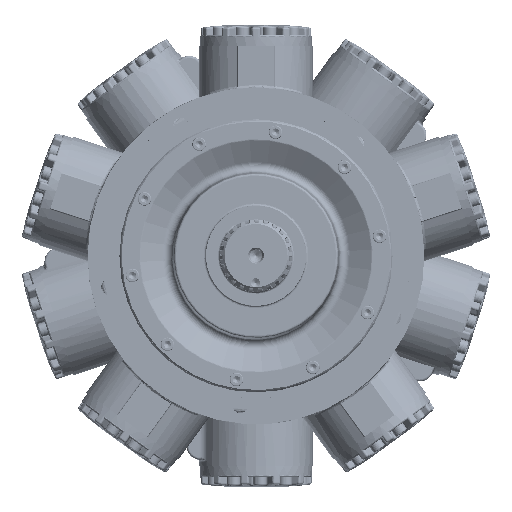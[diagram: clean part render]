
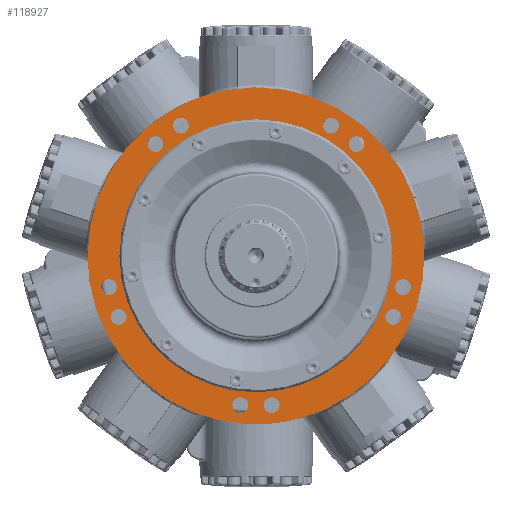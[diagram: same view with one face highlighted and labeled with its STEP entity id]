
A CAD part, top view. The second image highlights one B-rep face of the part: STEP entity #118927.
In plain terms, the highlighted planar face has unit normal (0, 0, 1).
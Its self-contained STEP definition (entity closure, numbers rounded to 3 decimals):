
#20186=PLANE('',#128538);
#24698=FACE_BOUND('',#39300,.T.);
#24699=FACE_BOUND('',#39301,.T.);
#24700=FACE_BOUND('',#39302,.T.);
#24701=FACE_BOUND('',#39303,.T.);
#24702=FACE_BOUND('',#39304,.T.);
#24703=FACE_BOUND('',#39305,.T.);
#24704=FACE_BOUND('',#39306,.T.);
#24705=FACE_BOUND('',#39307,.T.);
#24706=FACE_BOUND('',#39308,.T.);
#24707=FACE_BOUND('',#39309,.T.);
#24708=FACE_BOUND('',#39310,.T.);
#30509=FACE_OUTER_BOUND('',#39299,.T.);
#39299=EDGE_LOOP('',(#95717));
#39300=EDGE_LOOP('',(#95718));
#39301=EDGE_LOOP('',(#95719));
#39302=EDGE_LOOP('',(#95720));
#39303=EDGE_LOOP('',(#95721));
#39304=EDGE_LOOP('',(#95722));
#39305=EDGE_LOOP('',(#95723));
#39306=EDGE_LOOP('',(#95724));
#39307=EDGE_LOOP('',(#95725));
#39308=EDGE_LOOP('',(#95726));
#39309=EDGE_LOOP('',(#95727));
#39310=EDGE_LOOP('',(#95728));
#46356=CIRCLE('',#128279,19.046);
#46361=CIRCLE('',#128288,1.1);
#46365=CIRCLE('',#128295,1.1);
#46369=CIRCLE('',#128302,1.1);
#46373=CIRCLE('',#128309,1.1);
#46377=CIRCLE('',#128316,1.1);
#46381=CIRCLE('',#128323,1.1);
#46385=CIRCLE('',#128330,1.1);
#46389=CIRCLE('',#128337,1.1);
#46393=CIRCLE('',#128344,1.1);
#46397=CIRCLE('',#128351,1.1);
#46472=CIRCLE('',#128539,23.495);
#55493=VERTEX_POINT('',#215176);
#55498=VERTEX_POINT('',#215190);
#55502=VERTEX_POINT('',#215201);
#55506=VERTEX_POINT('',#215212);
#55510=VERTEX_POINT('',#215223);
#55514=VERTEX_POINT('',#215234);
#55518=VERTEX_POINT('',#215245);
#55522=VERTEX_POINT('',#215256);
#55526=VERTEX_POINT('',#215267);
#55530=VERTEX_POINT('',#215278);
#55534=VERTEX_POINT('',#215289);
#55764=VERTEX_POINT('',#216564);
#69524=EDGE_CURVE('',#55493,#55493,#46356,.T.);
#69529=EDGE_CURVE('',#55498,#55498,#46361,.T.);
#69533=EDGE_CURVE('',#55502,#55502,#46365,.T.);
#69537=EDGE_CURVE('',#55506,#55506,#46369,.T.);
#69541=EDGE_CURVE('',#55510,#55510,#46373,.T.);
#69545=EDGE_CURVE('',#55514,#55514,#46377,.T.);
#69549=EDGE_CURVE('',#55518,#55518,#46381,.T.);
#69553=EDGE_CURVE('',#55522,#55522,#46385,.T.);
#69557=EDGE_CURVE('',#55526,#55526,#46389,.T.);
#69561=EDGE_CURVE('',#55530,#55530,#46393,.T.);
#69565=EDGE_CURVE('',#55534,#55534,#46397,.T.);
#69882=EDGE_CURVE('',#55764,#55764,#46472,.T.);
#95717=ORIENTED_EDGE('',*,*,#69882,.F.);
#95718=ORIENTED_EDGE('',*,*,#69529,.T.);
#95719=ORIENTED_EDGE('',*,*,#69533,.T.);
#95720=ORIENTED_EDGE('',*,*,#69537,.T.);
#95721=ORIENTED_EDGE('',*,*,#69541,.T.);
#95722=ORIENTED_EDGE('',*,*,#69545,.T.);
#95723=ORIENTED_EDGE('',*,*,#69549,.T.);
#95724=ORIENTED_EDGE('',*,*,#69553,.T.);
#95725=ORIENTED_EDGE('',*,*,#69557,.T.);
#95726=ORIENTED_EDGE('',*,*,#69561,.T.);
#95727=ORIENTED_EDGE('',*,*,#69565,.T.);
#95728=ORIENTED_EDGE('',*,*,#69524,.T.);
#118927=ADVANCED_FACE('',(#30509,#24698,#24699,#24700,#24701,#24702,#24703,
#24704,#24705,#24706,#24707,#24708),#20186,.F.);
#128279=AXIS2_PLACEMENT_3D('',#215177,#149532,#149533);
#128288=AXIS2_PLACEMENT_3D('',#215191,#149550,#149551);
#128295=AXIS2_PLACEMENT_3D('',#215202,#149564,#149565);
#128302=AXIS2_PLACEMENT_3D('',#215213,#149578,#149579);
#128309=AXIS2_PLACEMENT_3D('',#215224,#149592,#149593);
#128316=AXIS2_PLACEMENT_3D('',#215235,#149606,#149607);
#128323=AXIS2_PLACEMENT_3D('',#215246,#149620,#149621);
#128330=AXIS2_PLACEMENT_3D('',#215257,#149634,#149635);
#128337=AXIS2_PLACEMENT_3D('',#215268,#149648,#149649);
#128344=AXIS2_PLACEMENT_3D('',#215279,#149662,#149663);
#128351=AXIS2_PLACEMENT_3D('',#215290,#149676,#149677);
#128538=AXIS2_PLACEMENT_3D('',#216563,#150189,#150190);
#128539=AXIS2_PLACEMENT_3D('',#216565,#150191,#150192);
#149532=DIRECTION('center_axis',(0.,0.,-1.));
#149533=DIRECTION('ref_axis',(1.,0.,0.));
#149550=DIRECTION('center_axis',(0.,0.,-1.));
#149551=DIRECTION('ref_axis',(-0.309,-0.951,0.));
#149564=DIRECTION('center_axis',(0.,0.,-1.));
#149565=DIRECTION('ref_axis',(0.809,-0.588,0.));
#149578=DIRECTION('center_axis',(0.,0.,-1.));
#149579=DIRECTION('ref_axis',(0.809,0.588,0.));
#149592=DIRECTION('center_axis',(0.,0.,-1.));
#149593=DIRECTION('ref_axis',(-0.309,0.951,0.));
#149606=DIRECTION('center_axis',(0.,0.,-1.));
#149607=DIRECTION('ref_axis',(-1.,0.,0.));
#149620=DIRECTION('center_axis',(0.,0.,-1.));
#149621=DIRECTION('ref_axis',(0.309,-0.951,0.));
#149634=DIRECTION('center_axis',(0.,0.,-1.));
#149635=DIRECTION('ref_axis',(-0.809,-0.588,0.));
#149648=DIRECTION('center_axis',(0.,0.,-1.));
#149649=DIRECTION('ref_axis',(-0.809,0.588,0.));
#149662=DIRECTION('center_axis',(0.,0.,-1.));
#149663=DIRECTION('ref_axis',(0.309,0.951,0.));
#149676=DIRECTION('center_axis',(0.,0.,-1.));
#149677=DIRECTION('ref_axis',(1.,0.,0.));
#150189=DIRECTION('center_axis',(0.,0.,-1.));
#150190=DIRECTION('ref_axis',(-1.,0.,0.));
#150191=DIRECTION('center_axis',(0.,0.,-1.));
#150192=DIRECTION('ref_axis',(1.,0.,0.));
#215176=CARTESIAN_POINT('',(19.046,0.,0.483));
#215177=CARTESIAN_POINT('Origin',(0.,0.,0.483));
#215190=CARTESIAN_POINT('',(18.803,-9.569,0.483));
#215191=CARTESIAN_POINT('Origin',(19.143,-8.523,0.483));
#215201=CARTESIAN_POINT('',(14.912,14.926,0.483));
#215202=CARTESIAN_POINT('Origin',(14.022,15.573,0.483));
#215212=CARTESIAN_POINT('',(-9.588,18.794,0.483));
#215213=CARTESIAN_POINT('Origin',(-10.478,18.148,0.483));
#215223=CARTESIAN_POINT('',(-20.837,-3.311,0.483));
#215224=CARTESIAN_POINT('Origin',(-20.497,-4.357,0.483));
#215234=CARTESIAN_POINT('',(-3.29,-20.84,0.483));
#215235=CARTESIAN_POINT('Origin',(-2.19,-20.84,0.483));
#215245=CARTESIAN_POINT('',(-18.803,-9.569,0.483));
#215246=CARTESIAN_POINT('Origin',(-19.143,-8.523,0.483));
#215256=CARTESIAN_POINT('',(-14.912,14.926,0.483));
#215257=CARTESIAN_POINT('Origin',(-14.022,15.573,0.483));
#215267=CARTESIAN_POINT('',(9.588,18.794,0.483));
#215268=CARTESIAN_POINT('Origin',(10.478,18.148,0.483));
#215278=CARTESIAN_POINT('',(20.837,-3.311,0.483));
#215279=CARTESIAN_POINT('Origin',(20.497,-4.357,0.483));
#215289=CARTESIAN_POINT('',(3.29,-20.84,0.483));
#215290=CARTESIAN_POINT('Origin',(2.19,-20.84,0.483));
#216563=CARTESIAN_POINT('Origin',(21.317,0.,0.483));
#216564=CARTESIAN_POINT('',(-23.495,0.,0.483));
#216565=CARTESIAN_POINT('Origin',(0.,0.,0.483));
